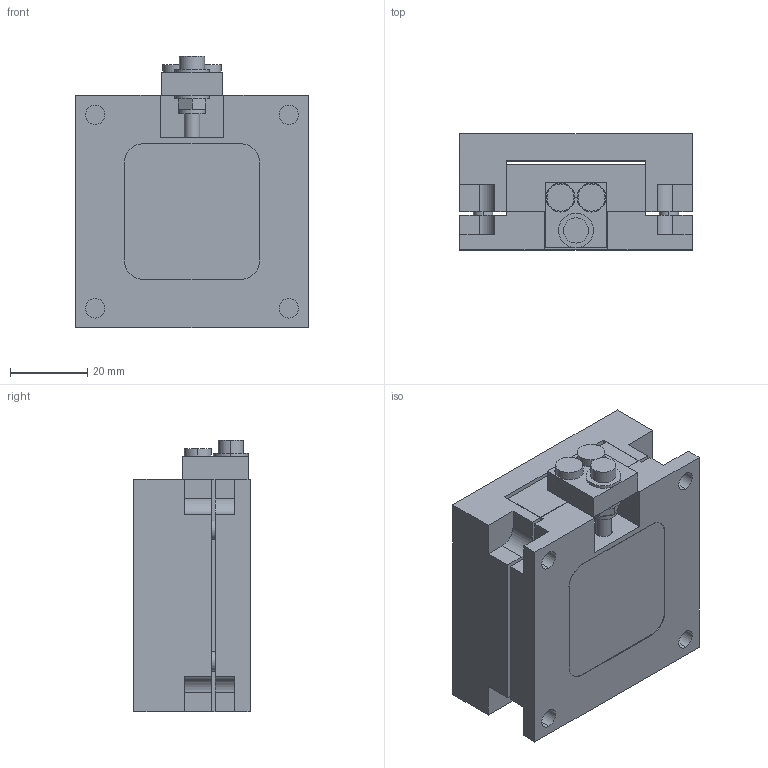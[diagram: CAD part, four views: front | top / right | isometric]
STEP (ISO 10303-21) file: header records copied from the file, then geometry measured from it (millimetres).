
FILE_DESCRIPTION (( 'STEP AP203' ), '1' );
FILE_NAME ('LV-6051FX.STEP', '2017-02-28T01:31:51', ( '' ), ( '' ), 'SwSTEP 2.0', 'SolidWorks 2016', '' );
FILE_SCHEMA (( 'CONFIG_CONTROL_DESIGN' ));
Length unit declared in the file: millimetre
Products named in the file (4): LV-6051FX-3; LV-6051FX; LV-6051FX-1; LV-6051FX-2
Assembly tree (3 placements, depth 2):
  LV-6051FX
    LV-6051FX-1
    LV-6051FX-2
    LV-6051FX-3
Bounding box: 60 x 30 x 70.11 mm (x, y, z)
Volume: 97212.7 mm3; surface area: 32855.6 mm2
Topology: 3 solids, 3 shells, 197 faces, 470 edges, 312 vertices
Faces by surface type: plane 105, cylinder 92
Entity records: 6200 total; most frequent: DIRECTION 1062, CARTESIAN_POINT 985, ORIENTED_EDGE 940, EDGE_CURVE 470, AXIS2_PLACEMENT_3D 389, VERTEX_POINT 312, LINE 284, VECTOR 284
